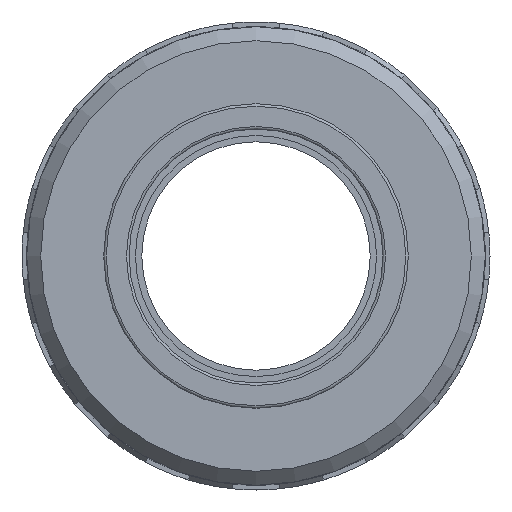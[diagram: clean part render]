
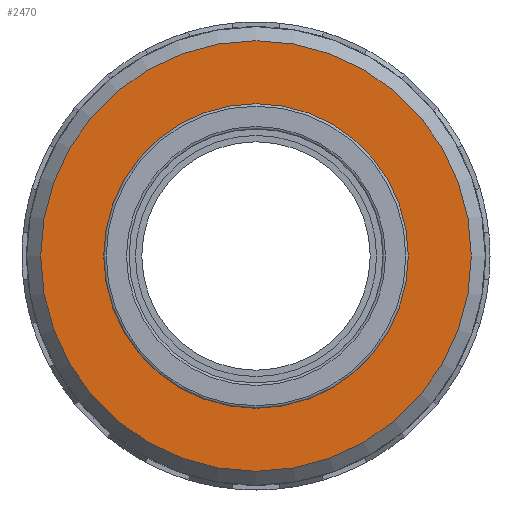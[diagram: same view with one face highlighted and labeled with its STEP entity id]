
A CAD part, left-side view. The second image highlights one B-rep face of the part: STEP entity #2470.
In plain terms, the highlighted planar face has unit normal (-1, 0, 0).
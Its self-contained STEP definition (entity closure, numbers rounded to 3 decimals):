
#64=FACE_BOUND('',#497,.T.);
#213=CIRCLE('',#2723,19.2);
#216=CIRCLE('',#2730,27.14);
#348=FACE_OUTER_BOUND('',#496,.T.);
#496=EDGE_LOOP('',(#2252));
#497=EDGE_LOOP('',(#2253));
#1191=VERTEX_POINT('',#4199);
#1194=VERTEX_POINT('',#4211);
#1544=EDGE_CURVE('',#1191,#1191,#213,.T.);
#1549=EDGE_CURVE('',#1194,#1194,#216,.T.);
#2252=ORIENTED_EDGE('',*,*,#1549,.F.);
#2253=ORIENTED_EDGE('',*,*,#1544,.F.);
#2339=PLANE('',#2732);
#2470=ADVANCED_FACE('',(#348,#64),#2339,.T.);
#2723=AXIS2_PLACEMENT_3D('',#4200,#3456,#3457);
#2730=AXIS2_PLACEMENT_3D('',#4212,#3472,#3473);
#2732=AXIS2_PLACEMENT_3D('',#4214,#3476,#3477);
#3456=DIRECTION('center_axis',(-1.,0.,0.));
#3457=DIRECTION('ref_axis',(0.,0.,1.));
#3472=DIRECTION('center_axis',(1.,0.,0.));
#3473=DIRECTION('ref_axis',(0.,1.,0.));
#3476=DIRECTION('center_axis',(-1.,0.,0.));
#3477=DIRECTION('ref_axis',(0.,0.,1.));
#4199=CARTESIAN_POINT('',(-12.5,-19.2,0.));
#4200=CARTESIAN_POINT('Origin',(-12.5,0.,0.));
#4211=CARTESIAN_POINT('',(-12.5,-27.14,0.));
#4212=CARTESIAN_POINT('Origin',(-12.5,0.,0.));
#4214=CARTESIAN_POINT('Origin',(-12.5,-19.2,0.));
